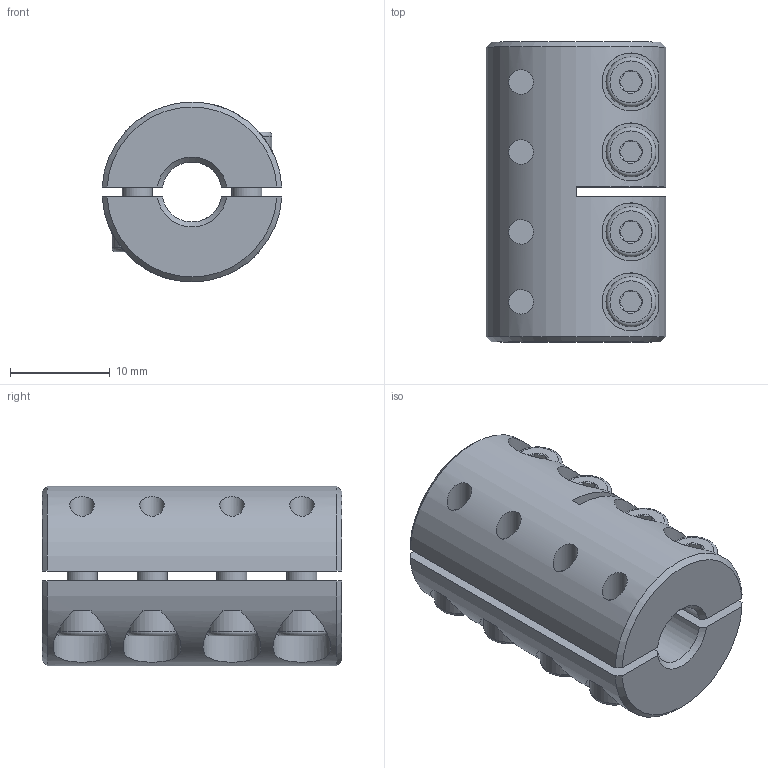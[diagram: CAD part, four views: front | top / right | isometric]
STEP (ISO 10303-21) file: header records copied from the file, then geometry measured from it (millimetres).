
FILE_DESCRIPTION( ( 'Unknown' ), '1' );
FILE_NAME( 'K:/Konstruktion/Fertigungszeichnungen/Schalenkupplung/KBST-G/KBST-G-6.stp', 'Unknown', ( 'Unknown' ), ( 'Unknown' ), 'PSStep 16.0.42', 'Unknown', ' ' );
FILE_SCHEMA( ( 'AUTOMOTIVE_DESIGN { 1 0 10303 214 1 1 1 1 }' ) );
Length unit declared in the file: millimetre
Products named in the file (4): Assem1; KBST-G-6; ISO EN DIN 4762 M3x8
Assembly tree (10 placements, depth 2):
  Assem1
    KBST-G-6
    KBST-G-6
    ISO EN DIN 4762 M3x8  x8
Bounding box: 17.97 x 30 x 18 mm (x, y, z)
Volume: 5944.8 mm3; surface area: 5507.4 mm2
Topology: 10 solids, 10 shells, 260 faces, 500 edges, 300 vertices
Faces by surface type: plane 120, cone 64, cylinder 60, torus 16
Full cylindrical faces by diameter (mm): 2.459 x8, 2.98 x8, 3 x16, 3.2 x8, 5 x8
Entity records: 3878 total; most frequent: CARTESIAN_POINT 1244, DIRECTION 390, ORIENTED_EDGE 326, AXIS2_PLACEMENT_3D 169, EDGE_CURVE 163, EDGE_LOOP 152, VERTEX_POINT 119, FACE_OUTER_BOUND 107
